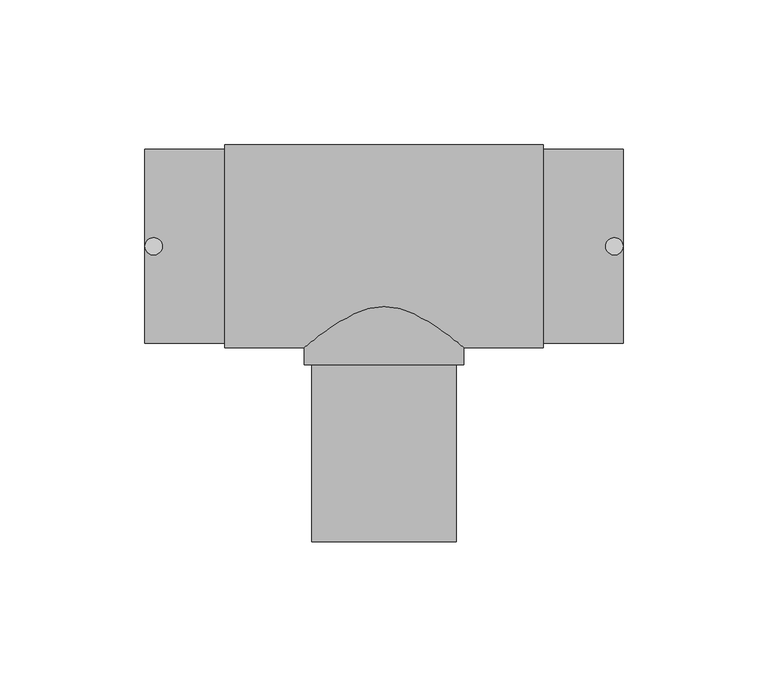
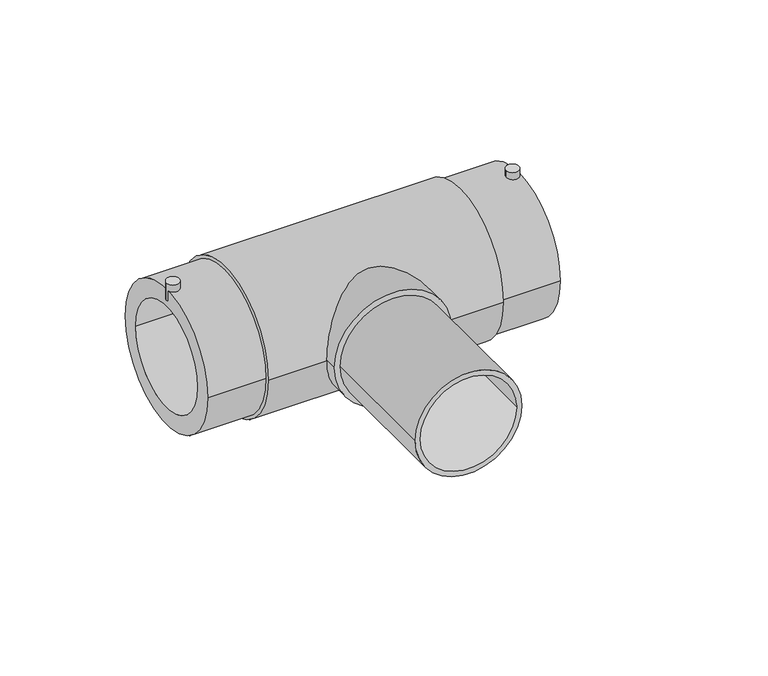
"""IFC4 building model written with IfcOpenShell, lengths in millimetres: pipe fitting geometry, EGB_VASEN_ PPR_Te electrosoldable WXRD300_Te reducida electrosoldable WXRD310 : Te electrosoldable."""

from ifc_helpers import new_model, si_unit, point, frame, frame_2d, origin, origin_2d, place, context, project, spatial, circle_curve, trimmed, segment, composite_curve, outline, extrude, source, transform, mapped, element, save


def pipe_fitting_39686f65(model_context):
    return source(origin(), model_context, "Body", "SweptSolid", [
        extrude(outline(composite_curve([segment(trimmed(circle_curve(frame_2d((-79.5, 0.0)), 3.0), [point((-82.5, 0.0))], [point((-76.5, 0.0))], False, "CARTESIAN"), True, "CONTINUOUS"), segment(trimmed(circle_curve(frame_2d((-79.5, 0.0)), 3.0), [point((-76.5, 0.0))], [point((-82.5, 0.0))], False, "CARTESIAN"), True, "CONTINUOUS")], self_intersect=False)), frame((0.0, 0.0, 28.0), z_axis=(0.0, 0.0, 1.0), x_axis=(1.0, 0.0, 0.0)), (0.0, 0.0, 1.0), 8.5),
        extrude(outline(composite_curve([segment(trimmed(circle_curve(frame_2d((79.5, 0.0)), 3.0), [point((76.5, 0.0))], [point((82.5, 0.0))], False, "CARTESIAN"), True, "CONTINUOUS"), segment(trimmed(circle_curve(frame_2d((79.5, 0.0)), 3.0), [point((82.5, 0.0))], [point((76.5, 0.0))], False, "CARTESIAN"), True, "CONTINUOUS")], self_intersect=False)), frame((0.0, 0.0, 28.0), z_axis=(0.0, 0.0, 1.0), x_axis=(1.0, 0.0, 0.0)), (0.0, 0.0, 1.0), 8.5),
        extrude(outline(composite_curve([segment(trimmed(circle_curve(origin_2d(), 27.5), [point((0.0, 27.5))], [point((0.0, -27.5))], False, "CARTESIAN"), True, "CONTINUOUS"), segment(trimmed(circle_curve(origin_2d(), 27.5), [point((0.0, -27.5))], [point((0.0, 27.5))], False, "CARTESIAN"), True, "CONTINUOUS")], self_intersect=False)), frame((0.0, -40.8, 0.0), z_axis=(0.0, 1.0, 0.0), x_axis=(0.0, 0.0, 1.0)), (0.0, 0.0, 1.0), 40.8),
        extrude(outline(composite_curve([segment(trimmed(circle_curve(origin_2d(), 25.0), [point((0.0, -25.0))], [point((0.0, 25.0))], False, "CARTESIAN"), True, "CONTINUOUS"), segment(trimmed(circle_curve(origin_2d(), 25.0), [point((0.0, 25.0))], [point((0.0, -25.0))], False, "CARTESIAN"), True, "CONTINUOUS")], self_intersect=False), holes=[composite_curve([segment(trimmed(circle_curve(origin_2d(), 22.5), [point((0.0, -22.5))], [point((0.0, 22.5))], True, "CARTESIAN"), True, "CONTINUOUS"), segment(trimmed(circle_curve(origin_2d(), 22.5), [point((0.0, 22.5))], [point((0.0, -22.5))], True, "CARTESIAN"), True, "CONTINUOUS")], self_intersect=False)]), frame((0.0, -102.0, 0.0), z_axis=(0.0, 1.0, 0.0), x_axis=(0.0, 0.0, 1.0)), (0.0, 0.0, 1.0), 61.2),
        extrude(outline(composite_curve([segment(trimmed(circle_curve(origin_2d(), 35.0), [point((-35.0, 0.0))], [point((35.0, 0.0))], False, "CARTESIAN"), True, "CONTINUOUS"), segment(trimmed(circle_curve(origin_2d(), 35.0), [point((35.0, 0.0))], [point((-35.0, 0.0))], False, "CARTESIAN"), True, "CONTINUOUS")], self_intersect=False), holes=[composite_curve([segment(trimmed(circle_curve(origin_2d(), 25.0), [point((-25.0, 0.0))], [point((25.0, 0.0))], True, "CARTESIAN"), True, "CONTINUOUS"), segment(trimmed(circle_curve(origin_2d(), 25.0), [point((25.0, 0.0))], [point((-25.0, 0.0))], True, "CARTESIAN"), True, "CONTINUOUS")], self_intersect=False)]), frame((-55.0, 0.0, 0.0), z_axis=(1.0, 0.0, 0.0), x_axis=(0.0, 1.0, 0.0)), (0.0, 0.0, 1.0), 110.0),
        extrude(outline(composite_curve([segment(trimmed(circle_curve(origin_2d(), 33.5), [point((-33.5, 0.0))], [point((33.5, 0.0))], False, "CARTESIAN"), True, "CONTINUOUS"), segment(trimmed(circle_curve(origin_2d(), 33.5), [point((33.5, 0.0))], [point((-33.5, 0.0))], False, "CARTESIAN"), True, "CONTINUOUS")], self_intersect=False), holes=[composite_curve([segment(trimmed(circle_curve(origin_2d(), 25.0), [point((-25.0, 0.0))], [point((25.0, 0.0))], True, "CARTESIAN"), True, "CONTINUOUS"), segment(trimmed(circle_curve(origin_2d(), 25.0), [point((25.0, 0.0))], [point((-25.0, 0.0))], True, "CARTESIAN"), True, "CONTINUOUS")], self_intersect=False)]), frame((-82.5, 0.0, 0.0), z_axis=(1.0, 0.0, 0.0), x_axis=(0.0, 1.0, 0.0)), (0.0, 0.0, 1.0), 165.0),
    ])


if __name__ == "__main__":
    model = new_model("IFC4")
    model_context = context("Model", 3, world=origin())
    ifc_project = project(units=[si_unit("LENGTHUNIT", "METRE", prefix="MILLI")], contexts=[model_context])
    site = spatial("IfcSite", under=ifc_project)
    building = spatial("IfcBuilding", under=site)
    placement = place(None, origin())
    pipe_fitting_shape = pipe_fitting_39686f65(model_context)
    element("IfcPipeFitting", 1, ObjectType="EGB_VASEN_ PPR_Te electrosoldable WXRD300_Te reducida electrosoldable WXRD310 : Te electrosoldable", at=placement, inside=building, context=model_context, shape_type="MappedRepresentation", body=[
        mapped(pipe_fitting_shape, transform((0.0, 0.0, 0.0), x_axis=(1.0, 0.0, 0.0), y_axis=(0.0, 1.0, 0.0), z_axis=(0.0, 0.0, 1.0))),
    ])
    save(model, "model.ifc")
